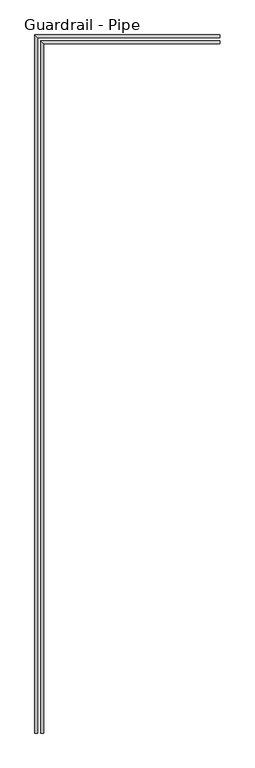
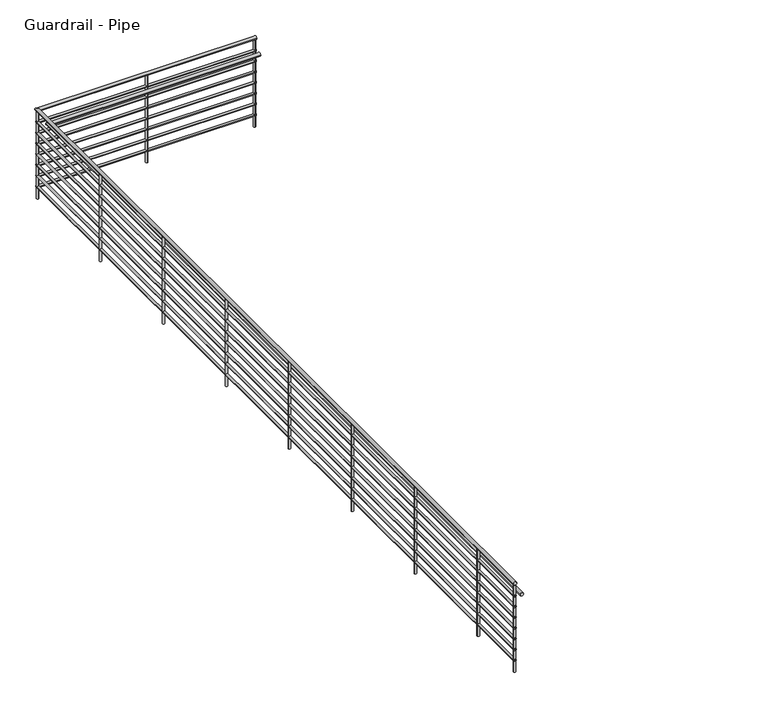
"""IFC4 building model written with IfcOpenShell, lengths in millimetres: railing geometry, Guardrail - Pipe."""

from ifc_helpers import new_model, si_unit, point, frame, frame_2d, origin, place, context, project, spatial, circle_curve, ellipse_curve, trimmed, segment, composite_curve, outline, extrude, source, transform, mapped, element, save
from ifc_brep_helpers import plane_surface, cylinder_surface, advanced_brep


def guardrail_pipe_e0ddf7e3(model_context):
    return source(origin(), model_context, "Body", "SolidModel", [
        advanced_brep(
        [(-2934.7516552, 9579.927236, 4107.75), (-2934.7516552, 9618.027236, 4107.75), (-5354.1016552, 9579.927236, 4107.75), (-5392.2016552, 9618.027236, 4107.75), (-5354.1016552, 353.377236, 4107.75), (-5392.2016552, 353.377236, 4107.75)],
        [
            (0, 1, circle_curve(frame((-2934.7516552, 9598.977236, 4107.75), z_axis=(1.0, 0.0, 0.0), x_axis=(0.0, 1.0, 0.0)), 19.05)),
            (1, 0, circle_curve(frame((-2934.7516552, 9598.977236, 4107.75), z_axis=(1.0, 0.0, 0.0), x_axis=(0.0, 1.0, 0.0)), 19.05)),
            (0, 2),
            (2, 3, ellipse_curve(frame((-5373.1516552, 9598.977236, 4107.75), z_axis=(0.7071067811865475, 0.7071067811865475, 0.0), x_axis=(0.7071067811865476, -0.7071067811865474, 0.0)), 26.9407684, 19.05)),
            (3, 1),
            (3, 2, ellipse_curve(frame((-5373.1516552, 9598.977236, 4107.75), z_axis=(0.7071067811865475, 0.7071067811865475, 0.0), x_axis=(0.7071067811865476, -0.7071067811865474, 0.0)), 26.9407684, 19.05)),
            (4, 5, circle_curve(frame((-5373.1516552, 353.377236, 4107.75), z_axis=(0.0, -1.0, 0.0), x_axis=(-1.0, 0.0, 0.0)), 19.05)),
            (5, 4, circle_curve(frame((-5373.1516552, 353.377236, 4107.75), z_axis=(0.0, -1.0, 0.0), x_axis=(-1.0, 0.0, 0.0)), 19.05)),
            (2, 4),
            (5, 3),
        ],
        [
            plane_surface(frame((-2934.7516552, 9598.977236, 4126.8), z_axis=(1.0, 0.0, 0.0), x_axis=(0.0, -1.0, 0.0))),
            cylinder_surface(frame((-2934.7516552, 9598.977236, 4107.75), z_axis=(1.0, 0.0, 0.0), x_axis=(0.0, 1.0, 0.0)), 19.05),
            plane_surface(frame((-5373.1516552, 353.377236, 4126.8), z_axis=(0.0, -1.0, 0.0), x_axis=(0.0, 0.0, -1.0))),
            cylinder_surface(frame((-5373.1516552, 9598.977236, 4107.75), z_axis=(0.0, 1.0, 0.0), x_axis=(-1.0, 0.0, 0.0)), 19.05),
        ],
        [
            (0, [[1, 2]]),
            (1, [[-1, 3, 4, 5]]),
            (1, [[-2, -5, 6, -3]]),
            (2, [[7, 8]]),
            (3, [[-4, 9, -8, 10]]),
            (3, [[-6, -10, -7, -9]]),
        ],
    ),
        advanced_brep(
        [(-2934.7516552, 9586.277236, 3961.7), (-2934.7516552, 9611.677236, 3961.7), (-5360.4516552, 9586.277236, 3961.7), (-5385.8516552, 9611.677236, 3961.7), (-5360.4516552, 353.377236, 3961.7), (-5385.8516552, 353.377236, 3961.7)],
        [
            (0, 1, circle_curve(frame((-2934.7516552, 9598.977236, 3961.7), z_axis=(1.0, 0.0, 0.0), x_axis=(0.0, 1.0, 0.0)), 12.7)),
            (1, 0, circle_curve(frame((-2934.7516552, 9598.977236, 3961.7), z_axis=(1.0, 0.0, 0.0), x_axis=(0.0, 1.0, 0.0)), 12.7)),
            (0, 2),
            (2, 3, ellipse_curve(frame((-5373.1516552, 9598.977236, 3961.7), z_axis=(0.7071067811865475, 0.7071067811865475, 0.0), x_axis=(0.7071067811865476, -0.7071067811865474, 0.0)), 17.9605122, 12.7)),
            (3, 1),
            (3, 2, ellipse_curve(frame((-5373.1516552, 9598.977236, 3961.7), z_axis=(0.7071067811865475, 0.7071067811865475, 0.0), x_axis=(0.7071067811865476, -0.7071067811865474, 0.0)), 17.9605122, 12.7)),
            (4, 5, circle_curve(frame((-5373.1516552, 353.377236, 3961.7), z_axis=(0.0, -1.0, 0.0), x_axis=(-1.0, 0.0, 0.0)), 12.7)),
            (5, 4, circle_curve(frame((-5373.1516552, 353.377236, 3961.7), z_axis=(0.0, -1.0, 0.0), x_axis=(-1.0, 0.0, 0.0)), 12.7)),
            (2, 4),
            (5, 3),
        ],
        [
            plane_surface(frame((-2934.7516552, 9598.977236, 3974.4), z_axis=(1.0, 0.0, 0.0), x_axis=(0.0, -1.0, 0.0))),
            cylinder_surface(frame((-2934.7516552, 9598.977236, 3961.7), z_axis=(1.0, 0.0, 0.0), x_axis=(0.0, 1.0, 0.0)), 12.7),
            plane_surface(frame((-5373.1516552, 353.377236, 3974.4), z_axis=(0.0, -1.0, 0.0), x_axis=(0.0, 0.0, -1.0))),
            cylinder_surface(frame((-5373.1516552, 9598.977236, 3961.7), z_axis=(0.0, 1.0, 0.0), x_axis=(-1.0, 0.0, 0.0)), 12.7),
        ],
        [
            (0, [[1, 2]]),
            (1, [[-1, 3, 4, 5]]),
            (1, [[-2, -5, 6, -3]]),
            (2, [[7, 8]]),
            (3, [[-4, 9, -8, 10]]),
            (3, [[-6, -10, -7, -9]]),
        ],
    ),
        advanced_brep(
        [(-2934.7516552, 9503.727236, 3955.35), (-2934.7516552, 9541.827236, 3955.35), (-5277.9016552, 9503.727236, 3955.35), (-5316.0016552, 9541.827236, 3955.35), (-5277.9016552, 353.377236, 3955.35), (-5316.0016552, 353.377236, 3955.35)],
        [
            (0, 1, circle_curve(frame((-2934.7516552, 9522.777236, 3955.35), z_axis=(1.0, 0.0, 0.0), x_axis=(0.0, 1.0, 0.0)), 19.05)),
            (1, 0, circle_curve(frame((-2934.7516552, 9522.777236, 3955.35), z_axis=(1.0, 0.0, 0.0), x_axis=(0.0, 1.0, 0.0)), 19.05)),
            (0, 2),
            (2, 3, ellipse_curve(frame((-5296.9516552, 9522.777236, 3955.35), z_axis=(0.7071067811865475, 0.7071067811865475, 0.0), x_axis=(0.7071067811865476, -0.7071067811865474, 0.0)), 26.9407684, 19.05)),
            (3, 1),
            (3, 2, ellipse_curve(frame((-5296.9516552, 9522.777236, 3955.35), z_axis=(0.7071067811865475, 0.7071067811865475, 0.0), x_axis=(0.7071067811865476, -0.7071067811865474, 0.0)), 26.9407684, 19.05)),
            (4, 5, circle_curve(frame((-5296.9516552, 353.377236, 3955.35), z_axis=(0.0, -1.0, 0.0), x_axis=(-1.0, 0.0, 0.0)), 19.05)),
            (5, 4, circle_curve(frame((-5296.9516552, 353.377236, 3955.35), z_axis=(0.0, -1.0, 0.0), x_axis=(-1.0, 0.0, 0.0)), 19.05)),
            (2, 4),
            (5, 3),
        ],
        [
            plane_surface(frame((-2934.7516552, 9522.777236, 3974.4), z_axis=(1.0, 0.0, 0.0), x_axis=(0.0, -1.0, 0.0))),
            cylinder_surface(frame((-2934.7516552, 9522.777236, 3955.35), z_axis=(1.0, 0.0, 0.0), x_axis=(0.0, 1.0, 0.0)), 19.05),
            plane_surface(frame((-5296.9516552, 353.377236, 3974.4), z_axis=(0.0, -1.0, 0.0), x_axis=(0.0, 0.0, -1.0))),
            cylinder_surface(frame((-5296.9516552, 9522.777236, 3955.35), z_axis=(0.0, 1.0, 0.0), x_axis=(-1.0, 0.0, 0.0)), 19.05),
        ],
        [
            (0, [[1, 2]]),
            (1, [[-1, 3, 4, 5]]),
            (1, [[-2, -5, 6, -3]]),
            (2, [[7, 8]]),
            (3, [[-4, 9, -8, 10]]),
            (3, [[-6, -10, -7, -9]]),
        ],
    ),
        advanced_brep(
        [(-2934.7516552, 9586.277236, 3834.7), (-2934.7516552, 9611.677236, 3834.7), (-5360.4516552, 9586.277236, 3834.7), (-5385.8516552, 9611.677236, 3834.7), (-5360.4516552, 353.377236, 3834.7), (-5385.8516552, 353.377236, 3834.7)],
        [
            (0, 1, circle_curve(frame((-2934.7516552, 9598.977236, 3834.7), z_axis=(1.0, 0.0, 0.0), x_axis=(0.0, 1.0, 0.0)), 12.7)),
            (1, 0, circle_curve(frame((-2934.7516552, 9598.977236, 3834.7), z_axis=(1.0, 0.0, 0.0), x_axis=(0.0, 1.0, 0.0)), 12.7)),
            (0, 2),
            (2, 3, ellipse_curve(frame((-5373.1516552, 9598.977236, 3834.7), z_axis=(0.7071067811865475, 0.7071067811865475, 0.0), x_axis=(0.7071067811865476, -0.7071067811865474, 0.0)), 17.9605122, 12.7)),
            (3, 1),
            (3, 2, ellipse_curve(frame((-5373.1516552, 9598.977236, 3834.7), z_axis=(0.7071067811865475, 0.7071067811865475, 0.0), x_axis=(0.7071067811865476, -0.7071067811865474, 0.0)), 17.9605122, 12.7)),
            (4, 5, circle_curve(frame((-5373.1516552, 353.377236, 3834.7), z_axis=(0.0, -1.0, 0.0), x_axis=(-1.0, 0.0, 0.0)), 12.7)),
            (5, 4, circle_curve(frame((-5373.1516552, 353.377236, 3834.7), z_axis=(0.0, -1.0, 0.0), x_axis=(-1.0, 0.0, 0.0)), 12.7)),
            (2, 4),
            (5, 3),
        ],
        [
            plane_surface(frame((-2934.7516552, 9598.977236, 3847.4), z_axis=(1.0, 0.0, 0.0), x_axis=(0.0, -1.0, 0.0))),
            cylinder_surface(frame((-2934.7516552, 9598.977236, 3834.7), z_axis=(1.0, 0.0, 0.0), x_axis=(0.0, 1.0, 0.0)), 12.7),
            plane_surface(frame((-5373.1516552, 353.377236, 3847.4), z_axis=(0.0, -1.0, 0.0), x_axis=(0.0, 0.0, -1.0))),
            cylinder_surface(frame((-5373.1516552, 9598.977236, 3834.7), z_axis=(0.0, 1.0, 0.0), x_axis=(-1.0, 0.0, 0.0)), 12.7),
        ],
        [
            (0, [[1, 2]]),
            (1, [[-1, 3, 4, 5]]),
            (1, [[-2, -5, 6, -3]]),
            (2, [[7, 8]]),
            (3, [[-4, 9, -8, 10]]),
            (3, [[-6, -10, -7, -9]]),
        ],
    ),
        advanced_brep(
        [(-2934.7516552, 9586.277236, 3707.7), (-2934.7516552, 9611.677236, 3707.7), (-5360.4516552, 9586.277236, 3707.7), (-5385.8516552, 9611.677236, 3707.7), (-5360.4516552, 353.377236, 3707.7), (-5385.8516552, 353.377236, 3707.7)],
        [
            (0, 1, circle_curve(frame((-2934.7516552, 9598.977236, 3707.7), z_axis=(1.0, 0.0, 0.0), x_axis=(0.0, 1.0, 0.0)), 12.7)),
            (1, 0, circle_curve(frame((-2934.7516552, 9598.977236, 3707.7), z_axis=(1.0, 0.0, 0.0), x_axis=(0.0, 1.0, 0.0)), 12.7)),
            (0, 2),
            (2, 3, ellipse_curve(frame((-5373.1516552, 9598.977236, 3707.7), z_axis=(0.7071067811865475, 0.7071067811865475, 0.0), x_axis=(0.7071067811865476, -0.7071067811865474, 0.0)), 17.9605122, 12.7)),
            (3, 1),
            (3, 2, ellipse_curve(frame((-5373.1516552, 9598.977236, 3707.7), z_axis=(0.7071067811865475, 0.7071067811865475, 0.0), x_axis=(0.7071067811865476, -0.7071067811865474, 0.0)), 17.9605122, 12.7)),
            (4, 5, circle_curve(frame((-5373.1516552, 353.377236, 3707.7), z_axis=(0.0, -1.0, 0.0), x_axis=(-1.0, 0.0, 0.0)), 12.7)),
            (5, 4, circle_curve(frame((-5373.1516552, 353.377236, 3707.7), z_axis=(0.0, -1.0, 0.0), x_axis=(-1.0, 0.0, 0.0)), 12.7)),
            (2, 4),
            (5, 3),
        ],
        [
            plane_surface(frame((-2934.7516552, 9598.977236, 3720.4), z_axis=(1.0, 0.0, 0.0), x_axis=(0.0, -1.0, 0.0))),
            cylinder_surface(frame((-2934.7516552, 9598.977236, 3707.7), z_axis=(1.0, 0.0, 0.0), x_axis=(0.0, 1.0, 0.0)), 12.7),
            plane_surface(frame((-5373.1516552, 353.377236, 3720.4), z_axis=(0.0, -1.0, 0.0), x_axis=(0.0, 0.0, -1.0))),
            cylinder_surface(frame((-5373.1516552, 9598.977236, 3707.7), z_axis=(0.0, 1.0, 0.0), x_axis=(-1.0, 0.0, 0.0)), 12.7),
        ],
        [
            (0, [[1, 2]]),
            (1, [[-1, 3, 4, 5]]),
            (1, [[-2, -5, 6, -3]]),
            (2, [[7, 8]]),
            (3, [[-4, 9, -8, 10]]),
            (3, [[-6, -10, -7, -9]]),
        ],
    ),
        advanced_brep(
        [(-2934.7516552, 9586.277236, 3580.7), (-2934.7516552, 9611.677236, 3580.7), (-5360.4516552, 9586.277236, 3580.7), (-5385.8516552, 9611.677236, 3580.7), (-5360.4516552, 353.377236, 3580.7), (-5385.8516552, 353.377236, 3580.7)],
        [
            (0, 1, circle_curve(frame((-2934.7516552, 9598.977236, 3580.7), z_axis=(1.0, 0.0, 0.0), x_axis=(0.0, 1.0, 0.0)), 12.7)),
            (1, 0, circle_curve(frame((-2934.7516552, 9598.977236, 3580.7), z_axis=(1.0, 0.0, 0.0), x_axis=(0.0, 1.0, 0.0)), 12.7)),
            (0, 2),
            (2, 3, ellipse_curve(frame((-5373.1516552, 9598.977236, 3580.7), z_axis=(0.7071067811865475, 0.7071067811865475, 0.0), x_axis=(0.7071067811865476, -0.7071067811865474, 0.0)), 17.9605122, 12.7)),
            (3, 1),
            (3, 2, ellipse_curve(frame((-5373.1516552, 9598.977236, 3580.7), z_axis=(0.7071067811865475, 0.7071067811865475, 0.0), x_axis=(0.7071067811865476, -0.7071067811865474, 0.0)), 17.9605122, 12.7)),
            (4, 5, circle_curve(frame((-5373.1516552, 353.377236, 3580.7), z_axis=(0.0, -1.0, 0.0), x_axis=(-1.0, 0.0, 0.0)), 12.7)),
            (5, 4, circle_curve(frame((-5373.1516552, 353.377236, 3580.7), z_axis=(0.0, -1.0, 0.0), x_axis=(-1.0, 0.0, 0.0)), 12.7)),
            (2, 4),
            (5, 3),
        ],
        [
            plane_surface(frame((-2934.7516552, 9598.977236, 3593.4), z_axis=(1.0, 0.0, 0.0), x_axis=(0.0, -1.0, 0.0))),
            cylinder_surface(frame((-2934.7516552, 9598.977236, 3580.7), z_axis=(1.0, 0.0, 0.0), x_axis=(0.0, 1.0, 0.0)), 12.7),
            plane_surface(frame((-5373.1516552, 353.377236, 3593.4), z_axis=(0.0, -1.0, 0.0), x_axis=(0.0, 0.0, -1.0))),
            cylinder_surface(frame((-5373.1516552, 9598.977236, 3580.7), z_axis=(0.0, 1.0, 0.0), x_axis=(-1.0, 0.0, 0.0)), 12.7),
        ],
        [
            (0, [[1, 2]]),
            (1, [[-1, 3, 4, 5]]),
            (1, [[-2, -5, 6, -3]]),
            (2, [[7, 8]]),
            (3, [[-4, 9, -8, 10]]),
            (3, [[-6, -10, -7, -9]]),
        ],
    ),
        advanced_brep(
        [(-2934.7516552, 9586.277236, 3453.7), (-2934.7516552, 9611.677236, 3453.7), (-5360.4516552, 9586.277236, 3453.7), (-5385.8516552, 9611.677236, 3453.7), (-5360.4516552, 353.377236, 3453.7), (-5385.8516552, 353.377236, 3453.7)],
        [
            (0, 1, circle_curve(frame((-2934.7516552, 9598.977236, 3453.7), z_axis=(1.0, 0.0, 0.0), x_axis=(0.0, 1.0, 0.0)), 12.7)),
            (1, 0, circle_curve(frame((-2934.7516552, 9598.977236, 3453.7), z_axis=(1.0, 0.0, 0.0), x_axis=(0.0, 1.0, 0.0)), 12.7)),
            (0, 2),
            (2, 3, ellipse_curve(frame((-5373.1516552, 9598.977236, 3453.7), z_axis=(0.7071067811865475, 0.7071067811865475, 0.0), x_axis=(0.7071067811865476, -0.7071067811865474, 0.0)), 17.9605122, 12.7)),
            (3, 1),
            (3, 2, ellipse_curve(frame((-5373.1516552, 9598.977236, 3453.7), z_axis=(0.7071067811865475, 0.7071067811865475, 0.0), x_axis=(0.7071067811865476, -0.7071067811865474, 0.0)), 17.9605122, 12.7)),
            (4, 5, circle_curve(frame((-5373.1516552, 353.377236, 3453.7), z_axis=(0.0, -1.0, 0.0), x_axis=(-1.0, 0.0, 0.0)), 12.7)),
            (5, 4, circle_curve(frame((-5373.1516552, 353.377236, 3453.7), z_axis=(0.0, -1.0, 0.0), x_axis=(-1.0, 0.0, 0.0)), 12.7)),
            (2, 4),
            (5, 3),
        ],
        [
            plane_surface(frame((-2934.7516552, 9598.977236, 3466.4), z_axis=(1.0, 0.0, 0.0), x_axis=(0.0, -1.0, 0.0))),
            cylinder_surface(frame((-2934.7516552, 9598.977236, 3453.7), z_axis=(1.0, 0.0, 0.0), x_axis=(0.0, 1.0, 0.0)), 12.7),
            plane_surface(frame((-5373.1516552, 353.377236, 3466.4), z_axis=(0.0, -1.0, 0.0), x_axis=(0.0, 0.0, -1.0))),
            cylinder_surface(frame((-5373.1516552, 9598.977236, 3453.7), z_axis=(0.0, 1.0, 0.0), x_axis=(-1.0, 0.0, 0.0)), 12.7),
        ],
        [
            (0, [[1, 2]]),
            (1, [[-1, 3, 4, 5]]),
            (1, [[-2, -5, 6, -3]]),
            (2, [[7, 8]]),
            (3, [[-4, 9, -8, 10]]),
            (3, [[-6, -10, -7, -9]]),
        ],
    ),
        advanced_brep(
        [(-2934.7516552, 9586.277236, 3326.7), (-2934.7516552, 9611.677236, 3326.7), (-5360.4516552, 9586.277236, 3326.7), (-5385.8516552, 9611.677236, 3326.7), (-5360.4516552, 353.377236, 3326.7), (-5385.8516552, 353.377236, 3326.7)],
        [
            (0, 1, circle_curve(frame((-2934.7516552, 9598.977236, 3326.7), z_axis=(1.0, 0.0, 0.0), x_axis=(0.0, 1.0, 0.0)), 12.7)),
            (1, 0, circle_curve(frame((-2934.7516552, 9598.977236, 3326.7), z_axis=(1.0, 0.0, 0.0), x_axis=(0.0, 1.0, 0.0)), 12.7)),
            (0, 2),
            (2, 3, ellipse_curve(frame((-5373.1516552, 9598.977236, 3326.7), z_axis=(0.7071067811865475, 0.7071067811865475, 0.0), x_axis=(0.7071067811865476, -0.7071067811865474, 0.0)), 17.9605122, 12.7)),
            (3, 1),
            (3, 2, ellipse_curve(frame((-5373.1516552, 9598.977236, 3326.7), z_axis=(0.7071067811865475, 0.7071067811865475, 0.0), x_axis=(0.7071067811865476, -0.7071067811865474, 0.0)), 17.9605122, 12.7)),
            (4, 5, circle_curve(frame((-5373.1516552, 353.377236, 3326.7), z_axis=(0.0, -1.0, 0.0), x_axis=(-1.0, 0.0, 0.0)), 12.7)),
            (5, 4, circle_curve(frame((-5373.1516552, 353.377236, 3326.7), z_axis=(0.0, -1.0, 0.0), x_axis=(-1.0, 0.0, 0.0)), 12.7)),
            (2, 4),
            (5, 3),
        ],
        [
            plane_surface(frame((-2934.7516552, 9598.977236, 3339.4), z_axis=(1.0, 0.0, 0.0), x_axis=(0.0, -1.0, 0.0))),
            cylinder_surface(frame((-2934.7516552, 9598.977236, 3326.7), z_axis=(1.0, 0.0, 0.0), x_axis=(0.0, 1.0, 0.0)), 12.7),
            plane_surface(frame((-5373.1516552, 353.377236, 3339.4), z_axis=(0.0, -1.0, 0.0), x_axis=(0.0, 0.0, -1.0))),
            cylinder_surface(frame((-5373.1516552, 9598.977236, 3326.7), z_axis=(0.0, 1.0, 0.0), x_axis=(-1.0, 0.0, 0.0)), 12.7),
        ],
        [
            (0, [[1, 2]]),
            (1, [[-1, 3, 4, 5]]),
            (1, [[-2, -5, 6, -3]]),
            (2, [[7, 8]]),
            (3, [[-4, 9, -8, 10]]),
            (3, [[-6, -10, -7, -9]]),
        ],
    ),
        advanced_brep(
        [(-2934.7516552, 9586.277236, 3199.7), (-2934.7516552, 9611.677236, 3199.7), (-5360.4516552, 9586.277236, 3199.7), (-5385.8516552, 9611.677236, 3199.7), (-5360.4516552, 353.377236, 3199.7), (-5385.8516552, 353.377236, 3199.7)],
        [
            (0, 1, circle_curve(frame((-2934.7516552, 9598.977236, 3199.7), z_axis=(1.0, 0.0, 0.0), x_axis=(0.0, 1.0, 0.0)), 12.7)),
            (1, 0, circle_curve(frame((-2934.7516552, 9598.977236, 3199.7), z_axis=(1.0, 0.0, 0.0), x_axis=(0.0, 1.0, 0.0)), 12.7)),
            (0, 2),
            (2, 3, ellipse_curve(frame((-5373.1516552, 9598.977236, 3199.7), z_axis=(0.7071067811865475, 0.7071067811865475, 0.0), x_axis=(0.7071067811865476, -0.7071067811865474, 0.0)), 17.9605122, 12.7)),
            (3, 1),
            (3, 2, ellipse_curve(frame((-5373.1516552, 9598.977236, 3199.7), z_axis=(0.7071067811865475, 0.7071067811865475, 0.0), x_axis=(0.7071067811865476, -0.7071067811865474, 0.0)), 17.9605122, 12.7)),
            (4, 5, circle_curve(frame((-5373.1516552, 353.377236, 3199.7), z_axis=(0.0, -1.0, 0.0), x_axis=(-1.0, 0.0, 0.0)), 12.7)),
            (5, 4, circle_curve(frame((-5373.1516552, 353.377236, 3199.7), z_axis=(0.0, -1.0, 0.0), x_axis=(-1.0, 0.0, 0.0)), 12.7)),
            (2, 4),
            (5, 3),
        ],
        [
            plane_surface(frame((-2934.7516552, 9598.977236, 3212.4), z_axis=(1.0, 0.0, 0.0), x_axis=(0.0, -1.0, 0.0))),
            cylinder_surface(frame((-2934.7516552, 9598.977236, 3199.7), z_axis=(1.0, 0.0, 0.0), x_axis=(0.0, 1.0, 0.0)), 12.7),
            plane_surface(frame((-5373.1516552, 353.377236, 3212.4), z_axis=(0.0, -1.0, 0.0), x_axis=(0.0, 0.0, -1.0))),
            cylinder_surface(frame((-5373.1516552, 9598.977236, 3199.7), z_axis=(0.0, 1.0, 0.0), x_axis=(-1.0, 0.0, 0.0)), 12.7),
        ],
        [
            (0, [[1, 2]]),
            (1, [[-1, 3, 4, 5]]),
            (1, [[-2, -5, 6, -3]]),
            (2, [[7, 8]]),
            (3, [[-4, 9, -8, 10]]),
            (3, [[-6, -10, -7, -9]]),
        ],
    ),
        extrude(outline(composite_curve([segment(trimmed(circle_curve(frame_2d((-5373.1516552, 1064.577236)), 12.7), [point((-5360.4516552, 1064.577236))], [point((-5385.8516552, 1064.577236))], False, "CARTESIAN"), True, "CONTINUOUS"), segment(trimmed(circle_curve(frame_2d((-5373.1516552, 1064.577236)), 12.7), [point((-5385.8516552, 1064.577236))], [point((-5360.4516552, 1064.577236))], False, "CARTESIAN"), True, "CONTINUOUS")], self_intersect=False)), frame((0.0, 0.0, 3060.0), z_axis=(0.0, 0.0, 1.0), x_axis=(1.0, 0.0, 0.0)), (0.0, 0.0, 1.0), 1028.7),
        extrude(outline(composite_curve([segment(trimmed(circle_curve(frame_2d((-5373.1516552, 2283.777236)), 12.7), [point((-5360.4516552, 2283.777236))], [point((-5385.8516552, 2283.777236))], False, "CARTESIAN"), True, "CONTINUOUS"), segment(trimmed(circle_curve(frame_2d((-5373.1516552, 2283.777236)), 12.7), [point((-5385.8516552, 2283.777236))], [point((-5360.4516552, 2283.777236))], False, "CARTESIAN"), True, "CONTINUOUS")], self_intersect=False)), frame((0.0, 0.0, 3060.0), z_axis=(0.0, 0.0, 1.0), x_axis=(1.0, 0.0, 0.0)), (0.0, 0.0, 1.0), 1028.7),
        extrude(outline(composite_curve([segment(trimmed(circle_curve(frame_2d((-5373.1516552, 3502.977236)), 12.7), [point((-5360.4516552, 3502.977236))], [point((-5385.8516552, 3502.977236))], False, "CARTESIAN"), True, "CONTINUOUS"), segment(trimmed(circle_curve(frame_2d((-5373.1516552, 3502.977236)), 12.7), [point((-5385.8516552, 3502.977236))], [point((-5360.4516552, 3502.977236))], False, "CARTESIAN"), True, "CONTINUOUS")], self_intersect=False)), frame((0.0, 0.0, 3060.0), z_axis=(0.0, 0.0, 1.0), x_axis=(1.0, 0.0, 0.0)), (0.0, 0.0, 1.0), 1028.7),
        extrude(outline(composite_curve([segment(trimmed(circle_curve(frame_2d((-5373.1516552, 4722.177236)), 12.7), [point((-5360.4516552, 4722.177236))], [point((-5385.8516552, 4722.177236))], False, "CARTESIAN"), True, "CONTINUOUS"), segment(trimmed(circle_curve(frame_2d((-5373.1516552, 4722.177236)), 12.7), [point((-5385.8516552, 4722.177236))], [point((-5360.4516552, 4722.177236))], False, "CARTESIAN"), True, "CONTINUOUS")], self_intersect=False)), frame((0.0, 0.0, 3060.0), z_axis=(0.0, 0.0, 1.0), x_axis=(1.0, 0.0, 0.0)), (0.0, 0.0, 1.0), 1028.7),
        extrude(outline(composite_curve([segment(trimmed(circle_curve(frame_2d((-5373.1516552, 5941.377236)), 12.7), [point((-5360.4516552, 5941.377236))], [point((-5385.8516552, 5941.377236))], False, "CARTESIAN"), True, "CONTINUOUS"), segment(trimmed(circle_curve(frame_2d((-5373.1516552, 5941.377236)), 12.7), [point((-5385.8516552, 5941.377236))], [point((-5360.4516552, 5941.377236))], False, "CARTESIAN"), True, "CONTINUOUS")], self_intersect=False)), frame((0.0, 0.0, 3060.0), z_axis=(0.0, 0.0, 1.0), x_axis=(1.0, 0.0, 0.0)), (0.0, 0.0, 1.0), 1028.7),
        extrude(outline(composite_curve([segment(trimmed(circle_curve(frame_2d((-5373.1516552, 7160.577236)), 12.7), [point((-5360.4516552, 7160.577236))], [point((-5385.8516552, 7160.577236))], False, "CARTESIAN"), True, "CONTINUOUS"), segment(trimmed(circle_curve(frame_2d((-5373.1516552, 7160.577236)), 12.7), [point((-5385.8516552, 7160.577236))], [point((-5360.4516552, 7160.577236))], False, "CARTESIAN"), True, "CONTINUOUS")], self_intersect=False)), frame((0.0, 0.0, 3060.0), z_axis=(0.0, 0.0, 1.0), x_axis=(1.0, 0.0, 0.0)), (0.0, 0.0, 1.0), 1028.7),
        extrude(outline(composite_curve([segment(trimmed(circle_curve(frame_2d((-5373.1516552, 8379.777236)), 12.7), [point((-5360.4516552, 8379.777236))], [point((-5385.8516552, 8379.777236))], False, "CARTESIAN"), True, "CONTINUOUS"), segment(trimmed(circle_curve(frame_2d((-5373.1516552, 8379.777236)), 12.7), [point((-5385.8516552, 8379.777236))], [point((-5360.4516552, 8379.777236))], False, "CARTESIAN"), True, "CONTINUOUS")], self_intersect=False)), frame((0.0, 0.0, 3060.0), z_axis=(0.0, 0.0, 1.0), x_axis=(1.0, 0.0, 0.0)), (0.0, 0.0, 1.0), 1028.7),
        extrude(outline(composite_curve([segment(trimmed(circle_curve(frame_2d((-4153.9516552, 9598.977236)), 12.7), [point((-4153.9516552, 9586.277236))], [point((-4153.9516552, 9611.677236))], False, "CARTESIAN"), True, "CONTINUOUS"), segment(trimmed(circle_curve(frame_2d((-4153.9516552, 9598.977236)), 12.7), [point((-4153.9516552, 9611.677236))], [point((-4153.9516552, 9586.277236))], False, "CARTESIAN"), True, "CONTINUOUS")], self_intersect=False)), frame((0.0, 0.0, 3060.0), z_axis=(0.0, 0.0, 1.0), x_axis=(1.0, 0.0, 0.0)), (0.0, 0.0, 1.0), 1028.7),
        extrude(outline(composite_curve([segment(trimmed(circle_curve(frame_2d((-5373.1516552, 9598.977236)), 12.7), [point((-5373.1516552, 9586.277236))], [point((-5373.1516552, 9611.677236))], False, "CARTESIAN"), True, "CONTINUOUS"), segment(trimmed(circle_curve(frame_2d((-5373.1516552, 9598.977236)), 12.7), [point((-5373.1516552, 9611.677236))], [point((-5373.1516552, 9586.277236))], False, "CARTESIAN"), True, "CONTINUOUS")], self_intersect=False)), frame((0.0, 0.0, 3060.0), z_axis=(0.0, 0.0, 1.0), x_axis=(1.0, 0.0, 0.0)), (0.0, 0.0, 1.0), 1028.7),
        extrude(outline(composite_curve([segment(trimmed(circle_curve(frame_2d((-5373.1516552, 366.077236)), 12.7), [point((-5360.4516552, 366.077236))], [point((-5385.8516552, 366.077236))], False, "CARTESIAN"), True, "CONTINUOUS"), segment(trimmed(circle_curve(frame_2d((-5373.1516552, 366.077236)), 12.7), [point((-5385.8516552, 366.077236))], [point((-5360.4516552, 366.077236))], False, "CARTESIAN"), True, "CONTINUOUS")], self_intersect=False)), frame((0.0, 0.0, 3060.0), z_axis=(0.0, 0.0, 1.0), x_axis=(1.0, 0.0, 0.0)), (0.0, 0.0, 1.0), 1028.7),
        extrude(outline(composite_curve([segment(trimmed(circle_curve(frame_2d((-2947.4516552, 9598.977236)), 12.7), [point((-2947.4516552, 9586.277236))], [point((-2947.4516552, 9611.677236))], False, "CARTESIAN"), True, "CONTINUOUS"), segment(trimmed(circle_curve(frame_2d((-2947.4516552, 9598.977236)), 12.7), [point((-2947.4516552, 9611.677236))], [point((-2947.4516552, 9586.277236))], False, "CARTESIAN"), True, "CONTINUOUS")], self_intersect=False)), frame((0.0, 0.0, 3060.0), z_axis=(0.0, 0.0, 1.0), x_axis=(1.0, 0.0, 0.0)), (0.0, 0.0, 1.0), 1028.7),
    ])


if __name__ == "__main__":
    model = new_model("IFC4")
    model_context = context("Model", 3, world=origin())
    ifc_project = project(units=[si_unit("LENGTHUNIT", "METRE", prefix="MILLI")], contexts=[model_context])
    site = spatial("IfcSite", under=ifc_project)
    building = spatial("IfcBuilding", under=site)
    placement = place(None, origin())
    guardrail_pipe_shape = guardrail_pipe_e0ddf7e3(model_context)
    element("IfcRailing", 1, ObjectType="Guardrail - Pipe", at=placement, inside=building, context=model_context, shape_type="MappedRepresentation", body=[
        mapped(guardrail_pipe_shape, transform((0.0, 0.0, 0.0), x_axis=(1.0, 0.0, 0.0), y_axis=(0.0, 1.0, 0.0), z_axis=(0.0, 0.0, 1.0))),
    ])
    save(model, "model.ifc")
